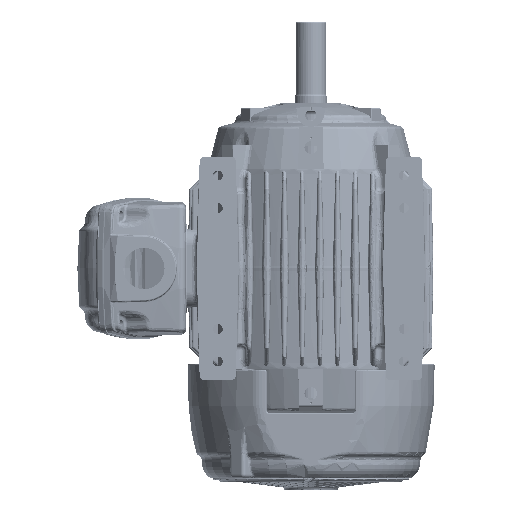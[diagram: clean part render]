
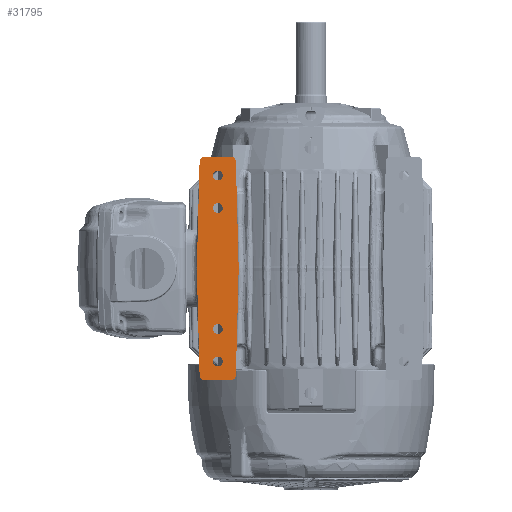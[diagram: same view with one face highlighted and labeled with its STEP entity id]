
A CAD part, front view. The second image highlights one B-rep face of the part: STEP entity #31795.
In plain terms, the highlighted planar face has unit normal (0, -1, 0).
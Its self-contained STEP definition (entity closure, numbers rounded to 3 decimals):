
#6793=DIRECTION('',(-0.026,0.,1.));
#6794=VECTOR('',#6793,5.759);
#6795=CARTESIAN_POINT('',(-3.88,-6.233,0.));
#6796=LINE('',#6795,#6794);
#6801=CARTESIAN_POINT('',(-5.729,-6.233,5.75));
#6802=DIRECTION('',(0.,-1.,0.));
#6803=DIRECTION('',(0.,0.,1.));
#6804=AXIS2_PLACEMENT_3D('',#6801,#6802,#6803);
#6806=CARTESIAN_POINT('',(-4.281,-6.233,5.75));
#6807=DIRECTION('',(0.,-1.,0.));
#6808=DIRECTION('',(1.,0.,0.026));
#6809=AXIS2_PLACEMENT_3D('',#6806,#6807,#6808);
#6811=CARTESIAN_POINT('',(-4.281,-6.233,-5.75));
#6812=DIRECTION('',(0.,1.,0.));
#6813=DIRECTION('',(1.,0.,-0.026));
#6814=AXIS2_PLACEMENT_3D('',#6811,#6812,#6813);
#6816=CARTESIAN_POINT('',(-5.729,-6.233,-5.75));
#6817=DIRECTION('',(0.,1.,0.));
#6818=DIRECTION('',(0.,0.,-1.));
#6819=AXIS2_PLACEMENT_3D('',#6816,#6817,#6818);
#6841=CARTESIAN_POINT('',(-5.,-6.233,4.995));
#6842=DIRECTION('',(0.,1.,0.));
#6843=DIRECTION('',(-1.,0.,0.));
#6844=AXIS2_PLACEMENT_3D('',#6841,#6842,#6843);
#6846=CARTESIAN_POINT('',(-5.,-6.233,4.995));
#6847=DIRECTION('',(0.,1.,0.));
#6848=DIRECTION('',(1.,0.,0.));
#6849=AXIS2_PLACEMENT_3D('',#6846,#6847,#6848);
#6861=CARTESIAN_POINT('',(-5.,-6.233,-5.005));
#6862=DIRECTION('',(0.,1.,0.));
#6863=DIRECTION('',(-1.,0.,0.));
#6864=AXIS2_PLACEMENT_3D('',#6861,#6862,#6863);
#6866=CARTESIAN_POINT('',(-5.,-6.233,-5.005));
#6867=DIRECTION('',(0.,1.,0.));
#6868=DIRECTION('',(1.,0.,0.));
#6869=AXIS2_PLACEMENT_3D('',#6866,#6867,#6868);
#6881=CARTESIAN_POINT('',(-5.,-6.233,3.245));
#6882=DIRECTION('',(0.,1.,0.));
#6883=DIRECTION('',(-1.,0.,0.));
#6884=AXIS2_PLACEMENT_3D('',#6881,#6882,#6883);
#6886=CARTESIAN_POINT('',(-5.,-6.233,3.245));
#6887=DIRECTION('',(0.,1.,0.));
#6888=DIRECTION('',(1.,0.,0.));
#6889=AXIS2_PLACEMENT_3D('',#6886,#6887,#6888);
#6901=CARTESIAN_POINT('',(-5.,-6.233,-3.255));
#6902=DIRECTION('',(0.,1.,0.));
#6903=DIRECTION('',(-1.,0.,0.));
#6904=AXIS2_PLACEMENT_3D('',#6901,#6902,#6903);
#6906=CARTESIAN_POINT('',(-5.,-6.233,-3.255));
#6907=DIRECTION('',(0.,1.,0.));
#6908=DIRECTION('',(1.,0.,0.));
#6909=AXIS2_PLACEMENT_3D('',#6906,#6907,#6908);
#6921=DIRECTION('',(-0.026,0.,-1.));
#6922=VECTOR('',#6921,5.759);
#6923=CARTESIAN_POINT('',(-5.979,-6.233,5.757));
#6924=LINE('',#6923,#6922);
#6933=DIRECTION('',(-0.026,0.,1.));
#6934=VECTOR('',#6933,5.759);
#6935=CARTESIAN_POINT('',(-5.979,-6.233,-5.757));
#6936=LINE('',#6935,#6934);
#6945=DIRECTION('',(-1.,0.,0.));
#6946=VECTOR('',#6945,1.449);
#6947=CARTESIAN_POINT('',(-4.281,-6.233,-6.));
#6948=LINE('',#6947,#6946);
#6957=DIRECTION('',(-0.026,0.,-1.));
#6958=VECTOR('',#6957,5.759);
#6959=CARTESIAN_POINT('',(-3.88,-6.233,0.));
#6960=LINE('',#6959,#6958);
#8267=DIRECTION('',(-1.,0.,0.));
#8268=VECTOR('',#8267,1.449);
#8269=CARTESIAN_POINT('',(-4.281,-6.233,6.));
#8270=LINE('',#8269,#8268);
#17155=CARTESIAN_POINT('',(-5.979,-6.233,5.757));
#17156=CARTESIAN_POINT('',(-6.13,-6.233,0.));
#17157=VERTEX_POINT('',#17155);
#17158=VERTEX_POINT('',#17156);
#17159=CARTESIAN_POINT('',(-3.88,-6.233,0.));
#17160=CARTESIAN_POINT('',(-4.031,-6.233,5.757));
#17161=VERTEX_POINT('',#17159);
#17162=VERTEX_POINT('',#17160);
#17183=CARTESIAN_POINT('',(-5.979,-6.233,-5.757));
#17184=VERTEX_POINT('',#17183);
#17185=CARTESIAN_POINT('',(-4.031,-6.233,-5.757));
#17186=VERTEX_POINT('',#17185);
#17203=CARTESIAN_POINT('',(-5.265,-6.233,4.995));
#17204=CARTESIAN_POINT('',(-4.735,-6.233,4.995));
#17205=VERTEX_POINT('',#17203);
#17206=VERTEX_POINT('',#17204);
#17489=CARTESIAN_POINT('',(-4.281,-6.233,6.));
#17490=CARTESIAN_POINT('',(-5.729,-6.233,6.));
#17491=VERTEX_POINT('',#17489);
#17492=VERTEX_POINT('',#17490);
#17497=CARTESIAN_POINT('',(-4.281,-6.233,-6.));
#17498=CARTESIAN_POINT('',(-5.729,-6.233,-6.));
#17499=VERTEX_POINT('',#17497);
#17500=VERTEX_POINT('',#17498);
#18204=CARTESIAN_POINT('',(-5.265,-6.233,-5.005));
#18205=CARTESIAN_POINT('',(-4.735,-6.233,-5.005));
#18206=VERTEX_POINT('',#18204);
#18207=VERTEX_POINT('',#18205);
#18967=CARTESIAN_POINT('',(-5.265,-6.233,3.245));
#18968=CARTESIAN_POINT('',(-4.735,-6.233,3.245));
#18969=VERTEX_POINT('',#18967);
#18970=VERTEX_POINT('',#18968);
#18979=CARTESIAN_POINT('',(-5.265,-6.233,-3.255));
#18980=CARTESIAN_POINT('',(-4.735,-6.233,-3.255));
#18981=VERTEX_POINT('',#18979);
#18982=VERTEX_POINT('',#18980);
#31745=CARTESIAN_POINT('',(8.34,-6.233,7.209));
#31746=DIRECTION('',(0.,1.,0.));
#31747=DIRECTION('',(-1.,0.,0.));
#31748=AXIS2_PLACEMENT_3D('',#31745,#31746,#31747);
#31749=PLANE('',#31748);
#31751=ORIENTED_EDGE('',*,*,#31750,.F.);
#31753=ORIENTED_EDGE('',*,*,#31752,.F.);
#31755=ORIENTED_EDGE('',*,*,#31754,.F.);
#31757=ORIENTED_EDGE('',*,*,#31756,.F.);
#31758=ORIENTED_EDGE('',*,*,#31728,.F.);
#31760=ORIENTED_EDGE('',*,*,#31759,.T.);
#31762=ORIENTED_EDGE('',*,*,#31761,.T.);
#31764=ORIENTED_EDGE('',*,*,#31763,.T.);
#31766=ORIENTED_EDGE('',*,*,#31765,.T.);
#31768=ORIENTED_EDGE('',*,*,#31767,.T.);
#31769=EDGE_LOOP('',(#31751,#31753,#31755,#31757,#31758,#31760,#31762,#31764,
#31766,#31768));
#31770=FACE_OUTER_BOUND('',#31769,.F.);
#31772=ORIENTED_EDGE('',*,*,#31771,.F.);
#31774=ORIENTED_EDGE('',*,*,#31773,.F.);
#31775=EDGE_LOOP('',(#31772,#31774));
#31776=FACE_BOUND('',#31775,.F.);
#31778=ORIENTED_EDGE('',*,*,#31777,.F.);
#31780=ORIENTED_EDGE('',*,*,#31779,.F.);
#31781=EDGE_LOOP('',(#31778,#31780));
#31782=FACE_BOUND('',#31781,.F.);
#31784=ORIENTED_EDGE('',*,*,#31783,.F.);
#31786=ORIENTED_EDGE('',*,*,#31785,.F.);
#31787=EDGE_LOOP('',(#31784,#31786));
#31788=FACE_BOUND('',#31787,.F.);
#31790=ORIENTED_EDGE('',*,*,#31789,.F.);
#31792=ORIENTED_EDGE('',*,*,#31791,.F.);
#31793=EDGE_LOOP('',(#31790,#31792));
#31794=FACE_BOUND('',#31793,.F.);
#31795=ADVANCED_FACE('',(#31770,#31776,#31782,#31788,#31794),#31749,.F.);
#6805=CIRCLE('',#6804,0.25);
#6810=CIRCLE('',#6809,0.25);
#6815=CIRCLE('',#6814,0.25);
#6820=CIRCLE('',#6819,0.25);
#6845=CIRCLE('',#6844,0.265);
#6850=CIRCLE('',#6849,0.265);
#6865=CIRCLE('',#6864,0.265);
#6870=CIRCLE('',#6869,0.265);
#6885=CIRCLE('',#6884,0.265);
#6890=CIRCLE('',#6889,0.265);
#6905=CIRCLE('',#6904,0.265);
#6910=CIRCLE('',#6909,0.265);
#31728=EDGE_CURVE('',#17161,#17162,#6796,.T.);
#31750=EDGE_CURVE('',#17157,#17158,#6924,.T.);
#31752=EDGE_CURVE('',#17492,#17157,#6805,.T.);
#31754=EDGE_CURVE('',#17491,#17492,#8270,.T.);
#31756=EDGE_CURVE('',#17162,#17491,#6810,.T.);
#31759=EDGE_CURVE('',#17161,#17186,#6960,.T.);
#31761=EDGE_CURVE('',#17186,#17499,#6815,.T.);
#31763=EDGE_CURVE('',#17499,#17500,#6948,.T.);
#31765=EDGE_CURVE('',#17500,#17184,#6820,.T.);
#31767=EDGE_CURVE('',#17184,#17158,#6936,.T.);
#31771=EDGE_CURVE('',#17205,#17206,#6845,.T.);
#31773=EDGE_CURVE('',#17206,#17205,#6850,.T.);
#31777=EDGE_CURVE('',#18206,#18207,#6865,.T.);
#31779=EDGE_CURVE('',#18207,#18206,#6870,.T.);
#31783=EDGE_CURVE('',#18969,#18970,#6885,.T.);
#31785=EDGE_CURVE('',#18970,#18969,#6890,.T.);
#31789=EDGE_CURVE('',#18981,#18982,#6905,.T.);
#31791=EDGE_CURVE('',#18982,#18981,#6910,.T.);
